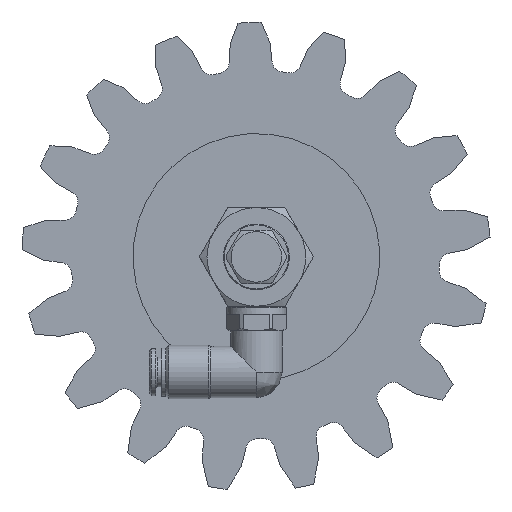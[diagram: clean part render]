
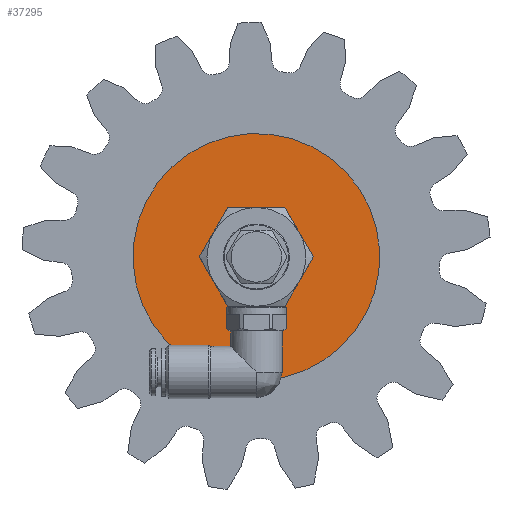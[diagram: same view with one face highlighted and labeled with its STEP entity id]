
A CAD part, front view. The second image highlights one B-rep face of the part: STEP entity #37295.
In plain terms, the highlighted planar face has unit normal (0, -1, 0) as drawn and (0, 0, 1) by its records, which use the part's own axes.
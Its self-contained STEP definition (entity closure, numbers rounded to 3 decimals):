
#1369 = AXIS2_PLACEMENT_3D ( 'NONE', #25558, #36861, #33670 ) ;
#4490 = AXIS2_PLACEMENT_3D ( 'NONE', #30567, #34485, #37702 ) ;
#5264 = CIRCLE ( 'NONE', #4490, 5.286 ) ;
#6274 = CARTESIAN_POINT ( 'NONE',  ( 30., 0., 0. ) ) ;
#7136 = FACE_BOUND ( 'NONE', #27539, .T. ) ;
#15759 = ORIENTED_EDGE ( 'NONE', *, *, #29846, .T. ) ;
#17313 = VERTEX_POINT ( 'NONE', #6274 ) ;
#17834 = CIRCLE ( 'NONE', #24118, 30. ) ;
#24118 = AXIS2_PLACEMENT_3D ( 'NONE', #29429, #48621, #33609 ) ;
#24542 = EDGE_LOOP ( 'NONE', ( #15759 ) ) ;
#25558 = CARTESIAN_POINT ( 'NONE',  ( 0., 30., 0. ) ) ;
#27539 = EDGE_LOOP ( 'NONE', ( #39971 ) ) ;
#29030 = FACE_OUTER_BOUND ( 'NONE', #24542, .T. ) ;
#29429 = CARTESIAN_POINT ( 'NONE',  ( 0., 0., 0. ) ) ;
#29846 = EDGE_CURVE ( 'NONE', #17313, #17313, #17834, .T. ) ;
#30567 = CARTESIAN_POINT ( 'NONE',  ( 0., 0., 0. ) ) ;
#33609 = DIRECTION ( 'NONE',  ( 1., 0., 0. ) ) ;
#33670 = DIRECTION ( 'NONE',  ( -1., 0., 0. ) ) ;
#34485 = DIRECTION ( 'NONE',  ( 0., 0., 1. ) ) ;
#36686 = EDGE_CURVE ( 'NONE', #36730, #36730, #5264, .T. ) ;
#36730 = VERTEX_POINT ( 'NONE', #47812 ) ;
#36861 = DIRECTION ( 'NONE',  ( 0., 0., -1. ) ) ;
#37295 = ADVANCED_FACE ( 'NONE', ( #7136, #29030 ), #44007, .F. ) ;
#37702 = DIRECTION ( 'NONE',  ( 1., 0., 0. ) ) ;
#39971 = ORIENTED_EDGE ( 'NONE', *, *, #36686, .F. ) ;
#44007 = PLANE ( 'NONE',  #1369 ) ;
#47812 = CARTESIAN_POINT ( 'NONE',  ( 5.286, 0., 0. ) ) ;
#48621 = DIRECTION ( 'NONE',  ( 0., 0., 1. ) ) ;
